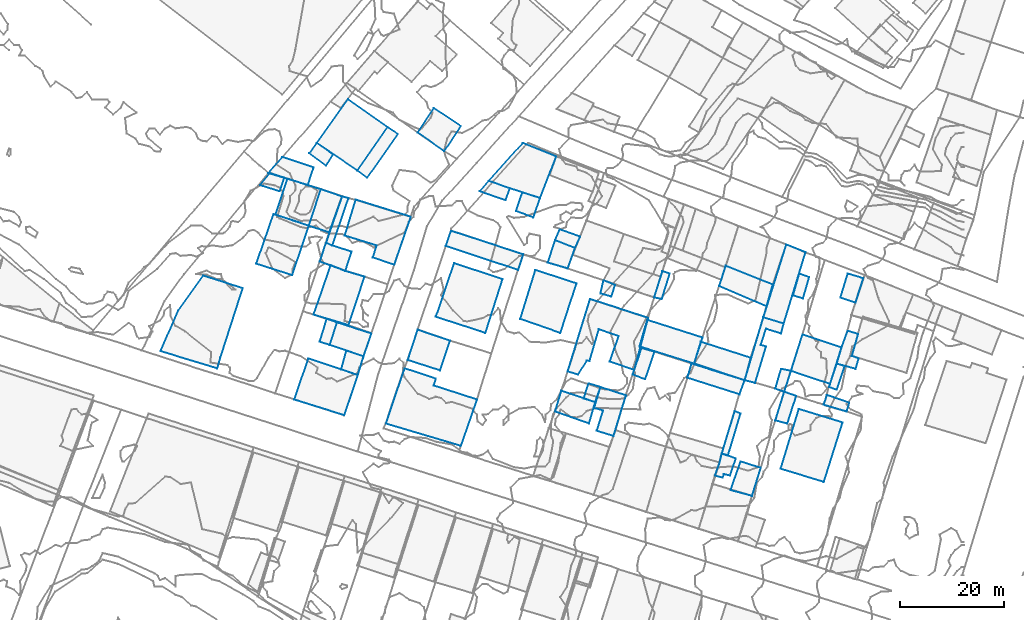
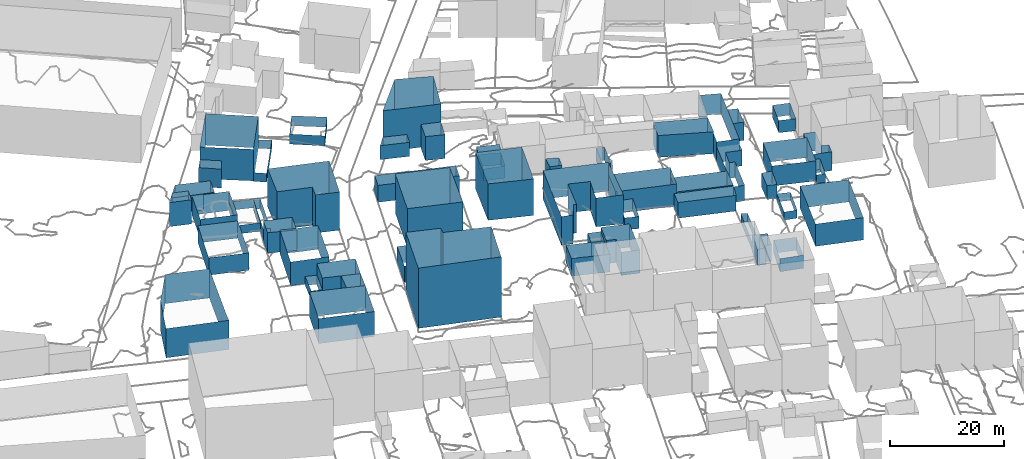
# Not in any storey, part 40 of 419: 53 walls.
"""IFC2X3 model written with IfcOpenShell, lengths in metres."""

from ifc_helpers import new_model, si_unit, frame, origin_with_axes, place, context, subcontext, project, faceted_brep, element, save


model = new_model("IFC2X3")

# Units and contexts
model_context = context("Model", 3, precision=1e-05, world=origin_with_axes())
body_context = subcontext(model_context, "Body", "Model", "MODEL_VIEW")
ifc_project = project(units=[si_unit("AREAUNIT", "SQUARE_METRE"), si_unit("LENGTHUNIT", "METRE")], contexts=[model_context])

# Walls
wall_1_placement = place(None, frame((928.6920204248, 152.1976909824, 73.6711987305), z_axis=(0.0, 0.0, 1.0), x_axis=(1.0, 0.0, 0.0)))
element("IfcWall", 1, at=wall_1_placement, Name="Mur 0", context=body_context, shape_type="Brep", body=[
    faceted_brep([(0.0, 0.0, 3.5288012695), (0.9, 2.5, 3.5288012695), (0.0, 0.0, 0.0), (0.9, 2.5, 0.0), (1.5, -0.3999999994, 3.5288012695), (1.5, -0.3999999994, 0.0), (1.7000000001, 0.2999999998, 3.5288012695), (1.7000000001, 0.2999999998, 0.0), (2.9, 0.0, 3.5288012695), (2.9, 0.0, 0.0), (4.0, 3.2999999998, 3.5288012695), (4.0, 3.2999999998, 0.0), (1.3, 4.2000000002, 3.5288012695), (1.3, 4.2000000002, 0.0)], [[[0, 1, 2]], [[2, 1, 3]], [[4, 0, 5]], [[5, 0, 2]], [[6, 4, 7]], [[7, 4, 5]], [[8, 6, 9]], [[9, 6, 7]], [[10, 8, 11]], [[11, 8, 9]], [[1, 12, 3]], [[3, 12, 13]], [[12, 10, 13]], [[13, 10, 11]]]),
])
wall_2_placement = place(None, frame((841.2920204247, 207.9976909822, 78.8006016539), z_axis=(0.0, 0.0, 1.0), x_axis=(1.0, 0.0, 0.0)))
element("IfcWall", 2, at=wall_2_placement, Name="Mur 0", context=body_context, shape_type="Brep", body=[
    faceted_brep([(1.9, 2.3000000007, 5.1993983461), (4.7000000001, 1.4000000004, 5.1993983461), (1.9, 2.3000000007, 0.0), (4.7000000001, 1.4000000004, 0.0), (0.0, 0.0, 5.1993983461), (0.0, 0.0, 0.0), (3.8, -1.1999999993, 5.1993983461), (3.8, -1.1999999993, 0.0)], [[[0, 1, 2]], [[2, 1, 3]], [[4, 0, 5]], [[5, 0, 2]], [[1, 6, 3]], [[3, 6, 7]], [[6, 4, 7]], [[7, 4, 5]]]),
])
wall_3_placement = place(None, frame((876.9920204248, 196.2976909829, 78.6641006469), z_axis=(0.0, 0.0, 1.0), x_axis=(1.0, 0.0, 0.0)))
element("IfcWall", 3, at=wall_3_placement, Name="Mur 0", context=body_context, shape_type="Brep", body=[
    faceted_brep([(13.9, -4.6000000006, 3.6358993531), (0.0, 0.0, 3.6358993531), (13.9, -4.6000000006, 0.0), (0.0, 0.0, 0.0), (14.9, -1.6000000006, 3.6358993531), (14.9, -1.6000000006, 0.0), (1.0, 2.8999999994, 3.6358993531), (1.0, 2.8999999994, 0.0)], [[[0, 1, 2]], [[2, 1, 3]], [[4, 0, 5]], [[5, 0, 2]], [[1, 6, 3]], [[3, 6, 7]], [[6, 4, 7]], [[7, 4, 5]]]),
])
wall_4_placement = place(None, frame((844.2920204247, 202.2976909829, 78.6877996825), z_axis=(0.0, 0.0, 1.0), x_axis=(1.0, 0.0, 0.0)))
element("IfcWall", 4, at=wall_4_placement, Name="Mur 0", context=body_context, shape_type="Brep", body=[
    faceted_brep([(2.3, 6.8999999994, 4.1122003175), (8.7000000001, 4.8999999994, 4.1122003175), (2.3, 6.8999999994, 0.0), (8.7000000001, 4.8999999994, 0.0), (0.0, 0.0, 4.1122003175), (0.0, 0.0, 0.0), (6.4, -2.1000000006, 4.1122003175), (6.4, -2.1000000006, 0.0)], [[[0, 1, 2]], [[2, 1, 3]], [[4, 0, 5]], [[5, 0, 2]], [[1, 6, 3]], [[3, 6, 7]], [[6, 4, 7]], [[7, 4, 5]]]),
])
wall_5_placement = place(None, frame((852.7920204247, 193.2976909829, 77.9876005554), z_axis=(0.0, 0.0, 1.0), x_axis=(1.0, 0.0, 0.0)))
element("IfcWall", 5, at=wall_5_placement, Name="Mur 0", context=body_context, shape_type="Brep", body=[
    faceted_brep([(1.2000000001, 3.5999999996, 4.4123994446), (2.4, 3.0999999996, 4.4123994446), (1.2000000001, 3.5999999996, 0.0), (2.4, 3.0999999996, 0.0), (0.0, 0.0, 4.4123994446), (0.0, 0.0, 0.0), (4.9, -1.8000000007, 4.4123994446), (4.9, -1.8000000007, 0.0), (6.1000000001, 1.8999999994, 4.4123994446), (6.1000000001, 1.8999999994, 0.0)], [[[0, 1, 2]], [[2, 1, 3]], [[4, 0, 5]], [[5, 0, 2]], [[6, 4, 7]], [[7, 4, 5]], [[1, 8, 3]], [[3, 8, 9]], [[8, 6, 9]], [[9, 6, 7]]]),
])
wall_6_placement = place(None, frame((890.4920204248, 202.9976909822, 78.856399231), z_axis=(0.0, 0.0, 1.0), x_axis=(1.0, 0.0, 0.0)))
element("IfcWall", 6, at=wall_6_placement, Name="Mur 0", context=body_context, shape_type="Brep", body=[
    faceted_brep([(0.0, 0.0, 5.143600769), (1.2, 3.6000000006, 5.143600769), (0.0, 0.0, 0.0), (1.2, 3.6000000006, 0.0), (3.2999999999, -1.1999999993, 5.143600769), (3.2999999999, -1.1999999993, 0.0), (4.6, 2.5, 5.143600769), (4.6, 2.5, 0.0)], [[[0, 1, 2]], [[2, 1, 3]], [[4, 0, 5]], [[5, 0, 2]], [[1, 6, 3]], [[3, 6, 7]], [[6, 4, 7]], [[7, 4, 5]]]),
])
wall_7_placement = place(None, frame((900.3920204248, 172.1976909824, 75.807699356), z_axis=(0.0, 0.0, 1.0), x_axis=(1.0, 0.0, 0.0)))
element("IfcWall", 7, at=wall_7_placement, Name="Mur 0", context=body_context, shape_type="Brep", body=[
    faceted_brep([(0.0, 0.0, 6.192300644), (4.2999999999, 13.9000000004, 6.192300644), (0.0, 0.0, 0.0), (4.2999999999, 13.9000000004, 0.0), (2.0, -0.5999999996, 6.192300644), (2.0, -0.5999999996, 0.0), (3.7, 2.1000000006, 6.192300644), (3.7, 2.1000000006, 0.0), (4.2, 2.0, 6.192300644), (4.2, 2.0, 0.0), (6.0, 8.1000000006, 6.192300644), (6.0, 8.1000000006, 0.0), (9.7999999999, 6.7999999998, 6.192300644), (9.7999999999, 6.7999999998, 0.0), (8.1, 1.9000000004, 6.192300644), (8.1, 1.9000000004, 0.0), (12.7999999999, 0.2999999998, 6.192300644), (12.7999999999, 0.2999999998, 0.0), (15.5, 10.2999999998, 6.192300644), (15.5, 10.2999999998, 0.0)], [[[0, 1, 2]], [[2, 1, 3]], [[4, 0, 5]], [[5, 0, 2]], [[6, 4, 7]], [[7, 4, 5]], [[8, 6, 9]], [[9, 6, 7]], [[10, 8, 11]], [[11, 8, 9]], [[12, 10, 13]], [[13, 10, 11]], [[14, 12, 15]], [[15, 12, 13]], [[16, 14, 17]], [[17, 14, 15]], [[1, 18, 3]], [[3, 18, 19]], [[18, 16, 19]], [[19, 16, 17]]]),
])
wall_8_placement = place(None, frame((891.2920204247, 182.2976909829, 78.2625008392), z_axis=(0.0, 0.0, 1.0), x_axis=(1.0, 0.0, 0.0)))
element("IfcWall", 8, at=wall_8_placement, Name="Mur 0", context=body_context, shape_type="Brep", body=[
    faceted_brep([(7.7000000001, -2.7000000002, 7.8374991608), (0.0, 0.0, 7.8374991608), (7.7000000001, -2.7000000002, 0.0), (0.0, 0.0, 0.0), (10.8, 6.7999999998, 7.8374991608), (10.8, 6.7999999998, 0.0), (2.9, 9.3999999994, 7.8374991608), (2.9, 9.3999999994, 0.0)], [[[0, 1, 2]], [[2, 1, 3]], [[4, 0, 5]], [[5, 0, 2]], [[1, 6, 3]], [[3, 6, 7]], [[6, 4, 7]], [[7, 4, 5]]]),
])
wall_9_placement = place(None, frame((943.2920204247, 172.2976909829, 73.4867980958), z_axis=(0.0, 0.0, 1.0), x_axis=(1.0, 0.0, 0.0)))
element("IfcWall", 9, at=wall_9_placement, Name="Mur 0", context=body_context, shape_type="Brep", body=[
    faceted_brep([(7.5, -2.5, 4.3132019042), (0.0, 0.0, 4.3132019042), (7.5, -2.5, 0.0), (0.0, 0.0, 0.0), (9.7000000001, 4.5, 4.3132019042), (9.7000000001, 4.5, 0.0), (2.2000000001, 7.0, 4.3132019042), (2.2000000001, 7.0, 0.0)], [[[0, 1, 2]], [[2, 1, 3]], [[4, 0, 5]], [[5, 0, 2]], [[1, 6, 3]], [[3, 6, 7]], [[6, 4, 7]], [[7, 4, 5]]]),
])
wall_10_placement = place(None, frame((950.5920204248, 169.1976909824, 72.9079986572), z_axis=(0.0, 0.0, 1.0), x_axis=(1.0, 0.0, 0.0)))
element("IfcWall", 10, at=wall_10_placement, Name="Mur 0", context=body_context, shape_type="Brep", body=[
    faceted_brep([(0.0, 0.0, 2.2920013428), (0.2, 0.6000000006, 2.2920013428), (0.0, 0.0, 0.0), (0.2, 0.6000000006, 0.0), (1.5, -0.5, 2.2920013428), (1.5, -0.5, 0.0), (3.0, 4.0, 2.2920013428), (3.0, 4.0, 0.0), (1.5, 4.5, 2.2920013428), (1.5, 4.5, 0.0)], [[[0, 1, 2]], [[2, 1, 3]], [[4, 0, 5]], [[5, 0, 2]], [[6, 4, 7]], [[7, 4, 5]], [[1, 8, 3]], [[3, 8, 9]], [[8, 6, 9]], [[9, 6, 7]]]),
])
wall_11_placement = place(None, frame((952.0920204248, 173.6976909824, 72.2478011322), z_axis=(0.0, 0.0, 1.0), x_axis=(1.0, 0.0, 0.0)))
element("IfcWall", 11, at=wall_11_placement, Name="Mur 0", context=body_context, shape_type="Brep", body=[
    faceted_brep([(0.0, 0.0, 4.0521988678), (0.9, 3.1000000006, 4.0521988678), (0.0, 0.0, 0.0), (0.9, 3.1000000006, 0.0), (3.6, -1.0, 4.0521988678), (3.6, -1.0, 0.0), (4.2, 1.0, 4.0521988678), (4.2, 1.0, 0.0), (2.9, 1.5, 4.0521988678), (2.9, 1.5, 0.0), (4.1, 5.7000000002, 4.0521988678), (4.1, 5.7000000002, 0.0), (2.1, 6.2999999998, 4.0521988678), (2.1, 6.2999999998, 0.0)], [[[0, 1, 2]], [[2, 1, 3]], [[4, 0, 5]], [[5, 0, 2]], [[6, 4, 7]], [[7, 4, 5]], [[8, 6, 9]], [[9, 6, 7]], [[10, 8, 11]], [[11, 8, 9]], [[1, 12, 3]], [[3, 12, 13]], [[12, 10, 13]], [[13, 10, 11]]]),
])
wall_12_placement = place(None, frame((852.1920204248, 216.0976909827, 80.4232022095), z_axis=(0.0, 0.0, 1.0), x_axis=(1.0, 0.0, 0.0)))
element("IfcWall", 12, at=wall_12_placement, Name="Mur 0", context=body_context, shape_type="Brep", body=[
    faceted_brep([(0.0, 0.0, 6.7767977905), (6.0, 8.3999999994, 6.7767977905), (0.0, 0.0, 0.0), (6.0, 8.3999999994, 0.0), (7.8, -5.2999999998, 6.7767977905), (7.8, -5.2999999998, 0.0), (13.6, 3.0, 6.7767977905), (13.6, 3.0, 0.0)], [[[0, 1, 2]], [[2, 1, 3]], [[4, 0, 5]], [[5, 0, 2]], [[1, 6, 3]], [[3, 6, 7]], [[6, 4, 7]], [[7, 4, 5]]]),
])
wall_13_placement = place(None, frame((871.5920204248, 218.0976909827, 79.8493997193), z_axis=(0.0, 0.0, 1.0), x_axis=(1.0, 0.0, 0.0)))
element("IfcWall", 13, at=wall_13_placement, Name="Mur 0", context=body_context, shape_type="Brep", body=[
    faceted_brep([(8.3, 1.2000000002, 2.1506002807), (5.1, -3.6000000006, 2.1506002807), (8.3, 1.2000000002, 0.0), (5.1, -3.6000000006, 0.0), (3.1, 4.7000000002, 2.1506002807), (3.1, 4.7000000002, 0.0), (0.0, 0.0, 2.1506002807), (0.0, 0.0, 0.0)], [[[0, 1, 2]], [[2, 1, 3]], [[4, 0, 5]], [[5, 0, 2]], [[1, 6, 3]], [[3, 6, 7]], [[6, 4, 7]], [[7, 4, 5]]]),
])
wall_14_placement = place(None, frame((850.6920204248, 200.1976909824, 78.6877996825), z_axis=(0.0, 0.0, 1.0), x_axis=(1.0, 0.0, 0.0)))
element("IfcWall", 14, at=wall_14_placement, Name="Mur 0", context=body_context, shape_type="Brep", body=[
    faceted_brep([(2.3, 7.0, 1.8122003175), (6.4, 5.6000000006, 1.8122003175), (2.3, 7.0, 0.0), (6.4, 5.6000000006, 0.0), (0.0, 0.0, 1.8122003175), (0.0, 0.0, 0.0), (3.9, -1.2999999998, 1.8122003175), (3.9, -1.2999999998, 0.0)], [[[0, 1, 2]], [[2, 1, 3]], [[4, 0, 5]], [[5, 0, 2]], [[1, 6, 3]], [[3, 6, 7]], [[6, 4, 7]], [[7, 4, 5]]]),
])
wall_15_placement = place(None, frame((934.3920204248, 170.4976909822, 74.1349980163), z_axis=(0.0, 0.0, 1.0), x_axis=(1.0, 0.0, 0.0)))
element("IfcWall", 15, at=wall_15_placement, Name="Mur 0", context=body_context, shape_type="Brep", body=[
    faceted_brep([(2.0, -0.5, 3.3650019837), (0.0, 0.0, 3.3650019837), (2.0, -0.5, 0.0), (0.0, 0.0, 0.0), (4.1, 6.5, 3.3650019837), (4.1, 6.5, 0.0), (3.1, 6.8000000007, 3.3650019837), (3.1, 6.8000000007, 0.0), (4.1, 9.9000000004, 3.3650019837), (4.1, 9.9000000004, 0.0), (7.0, 9.0, 3.3650019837), (7.0, 9.0, 0.0), (7.5, 10.9000000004, 3.3650019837), (7.5, 10.9000000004, 0.0), (3.6, 12.1000000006, 3.3650019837), (3.6, 12.1000000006, 0.0)], [[[0, 1, 2]], [[2, 1, 3]], [[4, 0, 5]], [[5, 0, 2]], [[6, 4, 7]], [[7, 4, 5]], [[8, 6, 9]], [[9, 6, 7]], [[10, 8, 11]], [[11, 8, 9]], [[12, 10, 13]], [[13, 10, 11]], [[1, 14, 3]], [[3, 14, 15]], [[14, 12, 15]], [[15, 12, 13]]]),
])
wall_16_placement = place(None, frame((905.4920204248, 165.1976909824, 74.2875997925), z_axis=(0.0, 0.0, 1.0), x_axis=(1.0, 0.0, 0.0)))
element("IfcWall", 16, at=wall_16_placement, Name="Mur 0", context=body_context, shape_type="Brep", body=[
    faceted_brep([(1.7, -0.5, 5.0124002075), (0.0, 0.0, 5.0124002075), (1.7, -0.5, 0.0), (0.0, 0.0, 0.0), (0.5, -4.3999999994, 5.0124002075), (0.5, -4.3999999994, 0.0), (3.7, -5.3999999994, 5.0124002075), (3.7, -5.3999999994, 0.0), (6.1, 2.4000000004, 5.0124002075), (6.1, 2.4000000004, 0.0), (1.2, 4.0, 5.0124002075), (1.2, 4.0, 0.0)], [[[0, 1, 2]], [[2, 1, 3]], [[4, 0, 5]], [[5, 0, 2]], [[6, 4, 7]], [[7, 4, 5]], [[8, 6, 9]], [[9, 6, 7]], [[1, 10, 3]], [[3, 10, 11]], [[10, 8, 11]], [[11, 8, 9]]]),
])
wall_17_placement = place(None, frame((897.9920204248, 197.3976909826, 78.2880004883), z_axis=(0.0, 0.0, 1.0), x_axis=(1.0, 0.0, 0.0)))
element("IfcWall", 17, at=wall_17_placement, Name="Mur 0", context=body_context, shape_type="Brep", body=[
    faceted_brep([(3.7999999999, -1.5, 2.7119995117), (0.0, 0.0, 2.7119995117), (3.7999999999, -1.5, 0.0), (0.0, 0.0, 0.0), (4.7999999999, 0.7000000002, 2.7119995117), (4.7999999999, 0.7000000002, 0.0), (0.9, 2.0999999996, 2.7119995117), (0.9, 2.0999999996, 0.0)], [[[0, 1, 2]], [[2, 1, 3]], [[4, 0, 5]], [[5, 0, 2]], [[1, 6, 3]], [[3, 6, 7]], [[6, 4, 7]], [[7, 4, 5]]]),
])
wall_18_placement = place(None, frame((937.9920204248, 182.5976909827, 74.1879985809), z_axis=(0.0, 0.0, 1.0), x_axis=(1.0, 0.0, 0.0)))
element("IfcWall", 18, at=wall_18_placement, Name="Mur 0", context=body_context, shape_type="Brep", body=[
    faceted_brep([(0.0, 0.0, 4.4120014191), (4.4, 14.0, 4.4120014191), (0.0, 0.0, 0.0), (4.4, 14.0, 0.0), (3.9, -1.2000000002, 4.4120014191), (3.9, -1.2000000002, 0.0), (8.1, 12.5, 4.4120014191), (8.1, 12.5, 0.0)], [[[0, 1, 2]], [[2, 1, 3]], [[4, 0, 5]], [[5, 0, 2]], [[1, 6, 3]], [[3, 6, 7]], [[6, 4, 7]], [[7, 4, 5]]]),
])
wall_19_placement = place(None, frame((941.2920204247, 153.4976909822, 72.6200027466), z_axis=(0.0, 0.0, 1.0), x_axis=(1.0, 0.0, 0.0)))
element("IfcWall", 19, at=wall_19_placement, Name="Mur 0", context=body_context, shape_type="Brep", body=[
    faceted_brep([(11.9, 8.9000000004, 4.7799972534), (8.3, -2.5, 4.7799972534), (11.9, 8.9000000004, 0.0), (8.3, -2.5, 0.0), (3.5, 11.5, 4.7799972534), (3.5, 11.5, 0.0), (0.0, 0.0, 4.7799972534), (0.0, 0.0, 0.0)], [[[0, 1, 2]], [[2, 1, 3]], [[4, 0, 5]], [[5, 0, 2]], [[1, 6, 3]], [[3, 6, 7]], [[6, 4, 7]], [[7, 4, 5]]]),
])
wall_20_placement = place(None, frame((851.5920204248, 183.0976909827, 77.6009994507), z_axis=(0.0, 0.0, 1.0), x_axis=(1.0, 0.0, 0.0)))
element("IfcWall", 20, at=wall_20_placement, Name="Mur 0", context=body_context, shape_type="Brep", body=[
    faceted_brep([(3.3, 9.5, 5.0990005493), (6.1, 8.3999999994, 5.0990005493), (3.3, 9.5, 0.0), (6.1, 8.3999999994, 0.0), (0.0, 0.0, 5.0990005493), (0.0, 0.0, 0.0), (6.7, -2.0, 5.0990005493), (6.7, -2.0, 0.0), (9.8, 7.2999999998, 5.0990005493), (9.8, 7.2999999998, 0.0)], [[[0, 1, 2]], [[2, 1, 3]], [[4, 0, 5]], [[5, 0, 2]], [[6, 4, 7]], [[7, 4, 5]], [[1, 8, 3]], [[3, 8, 9]], [[8, 6, 9]], [[9, 6, 7]]]),
])
wall_21_placement = place(None, frame((856.8920204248, 172.5976909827, 76.904000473), z_axis=(0.0, 0.0, 1.0), x_axis=(1.0, 0.0, 0.0)))
element("IfcWall", 21, at=wall_21_placement, Name="Mur 0", context=body_context, shape_type="Brep", body=[
    faceted_brep([(4.2999999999, 2.5, 4.795999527), (3.2, -1.1000000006, 4.795999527), (4.2999999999, 2.5, 0.0), (3.2, -1.1000000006, 0.0), (1.0, 3.5999999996, 4.795999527), (1.0, 3.5999999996, 0.0), (0.0, 0.0, 4.795999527), (0.0, 0.0, 0.0)], [[[0, 1, 2]], [[2, 1, 3]], [[4, 0, 5]], [[5, 0, 2]], [[1, 6, 3]], [[3, 6, 7]], [[6, 4, 7]], [[7, 4, 5]]]),
])
wall_22_placement = place(None, frame((906.6920204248, 187.1976909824, 77.49039917), z_axis=(0.0, 0.0, 1.0), x_axis=(1.0, 0.0, 0.0)))
element("IfcWall", 22, at=wall_22_placement, Name="Mur 0", context=body_context, shape_type="Brep", body=[
    faceted_brep([(0.0, 0.0, 3.90960083), (0.6, 2.5, 3.90960083), (0.0, 0.0, 0.0), (0.6, 2.5, 0.0), (2.1, -0.5999999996, 3.90960083), (2.1, -0.5999999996, 0.0), (2.8, 1.6000000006, 3.90960083), (2.8, 1.6000000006, 0.0)], [[[0, 1, 2]], [[2, 1, 3]], [[4, 0, 5]], [[5, 0, 2]], [[1, 6, 3]], [[3, 6, 7]], [[6, 4, 7]], [[7, 4, 5]]]),
])
wall_23_placement = place(None, frame((896.5920204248, 193.0976909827, 78.2880004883), z_axis=(0.0, 0.0, 1.0), x_axis=(1.0, 0.0, 0.0)))
element("IfcWall", 23, at=wall_23_placement, Name="Mur 0", context=body_context, shape_type="Brep", body=[
    faceted_brep([(3.8, -1.1000000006, 2.6119995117), (0.0, 0.0, 2.6119995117), (3.8, -1.1000000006, 0.0), (0.0, 0.0, 0.0), (5.2, 2.7999999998, 2.6119995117), (5.2, 2.7999999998, 0.0), (1.4, 4.2999999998, 2.6119995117), (1.4, 4.2999999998, 0.0)], [[[0, 1, 2]], [[2, 1, 3]], [[4, 0, 5]], [[5, 0, 2]], [[1, 6, 3]], [[3, 6, 7]], [[6, 4, 7]], [[7, 4, 5]]]),
])
wall_24_placement = place(None, frame((912.8920204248, 171.5976909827, 75.113199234), z_axis=(0.0, 0.0, 1.0), x_axis=(1.0, 0.0, 0.0)))
element("IfcWall", 24, at=wall_24_placement, Name="Mur 0", context=body_context, shape_type="Brep", body=[
    faceted_brep([(0.0, 0.0, 2.586800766), (1.7, 5.0999999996, 2.586800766), (0.0, 0.0, 0.0), (1.7, 5.0999999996, 0.0), (2.3999999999, -0.9000000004, 2.586800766), (2.3999999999, -0.9000000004, 0.0), (4.2, 4.3999999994, 2.586800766), (4.2, 4.3999999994, 0.0)], [[[0, 1, 2]], [[2, 1, 3]], [[4, 0, 5]], [[5, 0, 2]], [[1, 6, 3]], [[3, 6, 7]], [[6, 4, 7]], [[7, 4, 5]]]),
])
wall_25_placement = place(None, frame((847.8920204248, 166.7976909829, 76.3241984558), z_axis=(0.0, 0.0, 1.0), x_axis=(1.0, 0.0, 0.0)))
element("IfcWall", 25, at=wall_25_placement, Name="Mur 0", context=body_context, shape_type="Brep", body=[
    faceted_brep([(9.6, -3.0, 5.3758015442), (0.0, 0.0, 5.3758015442), (9.6, -3.0, 0.0), (0.0, 0.0, 0.0), (12.2, 4.6999999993, 5.3758015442), (12.2, 4.6999999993, 0.0), (2.7, 7.8999999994, 5.3758015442), (2.7, 7.8999999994, 0.0)], [[[0, 1, 2]], [[2, 1, 3]], [[4, 0, 5]], [[5, 0, 2]], [[1, 6, 3]], [[3, 6, 7]], [[6, 4, 7]], [[7, 4, 5]]]),
])
wall_26_placement = place(None, frame((949.5920204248, 165.7976909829, 71.9440007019), z_axis=(0.0, 0.0, 1.0), x_axis=(1.0, 0.0, 0.0)))
element("IfcWall", 26, at=wall_26_placement, Name="Mur 0", context=body_context, shape_type="Brep", body=[
    faceted_brep([(0.0, 0.0, 2.5559992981), (0.6, 1.8999999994, 2.5559992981), (0.0, 0.0, 0.0), (0.6, 1.8999999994, 0.0), (4.4, -1.3000000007, 2.5559992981), (4.4, -1.3000000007, 0.0), (4.9, 0.3999999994, 2.5559992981), (4.9, 0.3999999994, 0.0)], [[[0, 1, 2]], [[2, 1, 3]], [[4, 0, 5]], [[5, 0, 2]], [[1, 6, 3]], [[3, 6, 7]], [[6, 4, 7]], [[7, 4, 5]]]),
])
wall_27_placement = place(None, frame((903.4920204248, 166.9976909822, 75.2657026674), z_axis=(0.0, 0.0, 1.0), x_axis=(1.0, 0.0, 0.0)))
element("IfcWall", 27, at=wall_27_placement, Name="Mur 0", context=body_context, shape_type="Brep", body=[
    faceted_brep([(2.2, -0.6999999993, 3.1342973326), (0.0, 0.0, 3.1342973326), (2.2, -0.6999999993, 0.0), (0.0, 0.0, 0.0), (3.2, 2.2000000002, 3.1342973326), (3.2, 2.2000000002, 0.0), (0.9, 2.9000000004, 3.1342973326), (0.9, 2.9000000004, 0.0)], [[[0, 1, 2]], [[2, 1, 3]], [[4, 0, 5]], [[5, 0, 2]], [[1, 6, 3]], [[3, 6, 7]], [[6, 4, 7]], [[7, 4, 5]]]),
])
wall_28_placement = place(None, frame((859.9920204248, 210.7976909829, 80.3249977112), z_axis=(0.0, 0.0, 1.0), x_axis=(1.0, 0.0, 0.0)))
element("IfcWall", 28, at=wall_28_placement, Name="Mur 0", context=body_context, shape_type="Brep", body=[
    faceted_brep([(0.0, 0.0, 1.8750022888), (5.7999999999, 8.2999999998, 1.8750022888), (0.0, 0.0, 0.0), (5.7999999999, 8.2999999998, 0.0), (1.9, -1.4000000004, 1.8750022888), (1.9, -1.4000000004, 0.0), (7.7999999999, 7.0, 1.8750022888), (7.7999999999, 7.0, 0.0)], [[[0, 1, 2]], [[2, 1, 3]], [[4, 0, 5]], [[5, 0, 2]], [[1, 6, 3]], [[3, 6, 7]], [[6, 4, 7]], [[7, 4, 5]]]),
])
wall_29_placement = place(None, frame((929.9920204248, 156.3976909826, 74.1690032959), z_axis=(0.0, 0.0, 1.0), x_axis=(1.0, 0.0, 0.0)))
element("IfcWall", 29, at=wall_29_placement, Name="Mur 0", context=body_context, shape_type="Brep", body=[
    faceted_brep([(0.0, 0.0, 1.8309967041), (0.2999999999, 1.0, 1.8309967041), (0.0, 0.0, 0.0), (0.2999999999, 1.0, 0.0), (1.2, -0.2999999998, 1.8309967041), (1.2, -0.2999999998, 0.0), (3.6, 7.7000000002, 1.8309967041), (3.6, 7.7000000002, 0.0), (2.5, 8.2000000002, 1.8309967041), (2.5, 8.2000000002, 0.0)], [[[0, 1, 2]], [[2, 1, 3]], [[4, 0, 5]], [[5, 0, 2]], [[6, 4, 7]], [[7, 4, 5]], [[1, 8, 3]], [[3, 8, 9]], [[8, 6, 9]], [[9, 6, 7]]]),
])
wall_30_placement = place(None, frame((897.9920204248, 164.4976909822, 74.7147990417), z_axis=(0.0, 0.0, 1.0), x_axis=(1.0, 0.0, 0.0)))
element("IfcWall", 30, at=wall_30_placement, Name="Mur 0", context=body_context, shape_type="Brep", body=[
    faceted_brep([(0.0, 0.0, 3.7852009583), (1.2, 4.0, 3.7852009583), (0.0, 0.0, 0.0), (1.2, 4.0, 0.0), (6.5, -2.2999999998, 3.7852009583), (6.5, -2.2999999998, 0.0), (7.7, 1.8000000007, 3.7852009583), (7.7, 1.8000000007, 0.0)], [[[0, 1, 2]], [[2, 1, 3]], [[4, 0, 5]], [[5, 0, 2]], [[1, 6, 3]], [[3, 6, 7]], [[6, 4, 7]], [[7, 4, 5]]]),
])
wall_31_placement = place(None, frame((883.4920204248, 206.7976909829, 79.1811997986), z_axis=(0.0, 0.0, 1.0), x_axis=(1.0, 0.0, 0.0)))
element("IfcWall", 31, at=wall_31_placement, Name="Mur 0", context=body_context, shape_type="Brep", body=[
    faceted_brep([(5.0, -1.7000000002, 3.0188002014), (0.0, 0.0, 3.0188002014), (5.0, -1.7000000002, 0.0), (0.0, 0.0, 0.0), (5.7999999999, 0.5999999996, 3.0188002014), (5.7999999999, 0.5999999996, 0.0), (1.7, 2.0, 3.0188002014), (1.7, 2.0, 0.0)], [[[0, 1, 2]], [[2, 1, 3]], [[4, 0, 5]], [[5, 0, 2]], [[1, 6, 3]], [[3, 6, 7]], [[6, 4, 7]], [[7, 4, 5]]]),
])
wall_32_placement = place(None, frame((853.9920204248, 196.8976909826, 78.2600006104), z_axis=(0.0, 0.0, 1.0), x_axis=(1.0, 0.0, 0.0)))
element("IfcWall", 32, at=wall_32_placement, Name="Mur 0", context=body_context, shape_type="Brep", body=[
    faceted_brep([(3.1, 8.9000000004, 2.3399993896), (4.2999999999, 8.5999999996, 2.3399993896), (3.1, 8.9000000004, 0.0), (4.2999999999, 8.5999999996, 0.0), (0.0, 0.0, 2.3399993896), (0.0, 0.0, 0.0), (1.2, -0.5, 2.3399993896), (1.2, -0.5, 0.0)], [[[0, 1, 2]], [[2, 1, 3]], [[4, 0, 5]], [[5, 0, 2]], [[1, 6, 3]], [[3, 6, 7]], [[6, 4, 7]], [[7, 4, 5]]]),
])
wall_33_placement = place(None, frame((929.4920204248, 188.5976909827, 74.588999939), z_axis=(0.0, 0.0, 1.0), x_axis=(1.0, 0.0, 0.0)))
element("IfcWall", 33, at=wall_33_placement, Name="Mur 0", context=body_context, shape_type="Brep", body=[
    faceted_brep([(0.0, 0.0, 4.711000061), (1.2, 3.5999999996, 4.711000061), (0.0, 0.0, 0.0), (1.2, 3.5999999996, 0.0), (9.1, -3.9000000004, 4.711000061), (9.1, -3.9000000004, 0.0), (10.2999999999, 0.2999999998, 4.711000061), (10.2999999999, 0.2999999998, 0.0), (1.2999999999, 3.8999999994, 4.711000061), (1.2999999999, 3.8999999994, 0.0)], [[[0, 1, 2]], [[2, 1, 3]], [[4, 0, 5]], [[5, 0, 2]], [[6, 4, 7]], [[7, 4, 5]], [[1, 8, 3]], [[3, 8, 9]], [[8, 6, 9]], [[9, 6, 7]]]),
])
wall_34_placement = place(None, frame((923.3920204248, 170.9976909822, 74.3231997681), z_axis=(0.0, 0.0, 1.0), x_axis=(1.0, 0.0, 0.0)))
element("IfcWall", 34, at=wall_34_placement, Name="Mur 0", context=body_context, shape_type="Brep", body=[
    faceted_brep([(0.0, 0.0, 3.3768002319), (0.7999999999, 2.7000000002, 3.3768002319), (0.0, 0.0, 0.0), (0.7999999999, 2.7000000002, 0.0), (10.0, -3.1999999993, 3.3768002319), (10.0, -3.1999999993, 0.0), (11.0, -0.5, 3.3768002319), (11.0, -0.5, 0.0)], [[[0, 1, 2]], [[2, 1, 3]], [[4, 0, 5]], [[5, 0, 2]], [[1, 6, 3]], [[3, 6, 7]], [[6, 4, 7]], [[7, 4, 5]]]),
])
wall_35_placement = place(None, frame((875.0920204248, 182.6976909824, 77.83099823), z_axis=(0.0, 0.0, 1.0), x_axis=(1.0, 0.0, 0.0)))
element("IfcWall", 35, at=wall_35_placement, Name="Mur 0", context=body_context, shape_type="Brep", body=[
    faceted_brep([(9.5, -3.0999999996, 8.36900177), (0.0, 0.0, 8.36900177), (9.5, -3.0999999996, 0.0), (0.0, 0.0, 0.0), (12.8, 7.2000000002, 8.36900177), (12.8, 7.2000000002, 0.0), (3.5, 10.2999999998, 8.36900177), (3.5, 10.2999999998, 0.0)], [[[0, 1, 2]], [[2, 1, 3]], [[4, 0, 5]], [[5, 0, 2]], [[1, 6, 3]], [[3, 6, 7]], [[6, 4, 7]], [[7, 4, 5]]]),
])
wall_36_placement = place(None, frame((940.2920204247, 168.8976909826, 73.7157978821), z_axis=(0.0, 0.0, 1.0), x_axis=(1.0, 0.0, 0.0)))
element("IfcWall", 36, at=wall_36_placement, Name="Mur 0", context=body_context, shape_type="Brep", body=[
    faceted_brep([(1.7000000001, -0.5999999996, 2.9842021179), (0.0, 0.0, 2.9842021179), (1.7000000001, -0.5999999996, 0.0), (0.0, 0.0, 0.0), (3.0, 3.4000000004, 2.9842021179), (3.0, 3.4000000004, 0.0), (1.1000000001, 3.7999999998, 2.9842021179), (1.1000000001, 3.7999999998, 0.0)], [[[0, 1, 2]], [[2, 1, 3]], [[4, 0, 5]], [[5, 0, 2]], [[1, 6, 3]], [[3, 6, 7]], [[6, 4, 7]], [[7, 4, 5]]]),
])
wall_37_placement = place(None, frame((869.6920204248, 174.3976909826, 77.1950019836), z_axis=(0.0, 0.0, 1.0), x_axis=(1.0, 0.0, 0.0)))
element("IfcWall", 37, at=wall_37_placement, Name="Mur 0", context=body_context, shape_type="Brep", body=[
    faceted_brep([(0.0, 0.0, 3.6049980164), (1.9, 5.7999999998, 3.6049980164), (0.0, 0.0, 0.0), (1.9, 5.7999999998, 0.0), (6.2000000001, -2.0, 3.6049980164), (6.2000000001, -2.0, 0.0), (8.1, 3.7000000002, 3.6049980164), (8.1, 3.7000000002, 0.0)], [[[0, 1, 2]], [[2, 1, 3]], [[4, 0, 5]], [[5, 0, 2]], [[1, 6, 3]], [[3, 6, 7]], [[6, 4, 7]], [[7, 4, 5]]]),
])
wall_38_placement = place(None, frame((952.7920204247, 186.3976909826, 73.0867999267), z_axis=(0.0, 0.0, 1.0), x_axis=(1.0, 0.0, 0.0)))
element("IfcWall", 38, at=wall_38_placement, Name="Mur 0", context=body_context, shape_type="Brep", body=[
    faceted_brep([(1.4, 4.5999999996, 2.6132000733), (4.4, 3.7000000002, 2.6132000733), (1.4, 4.5999999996, 0.0), (4.4, 3.7000000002, 0.0), (0.0, 0.0, 2.6132000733), (0.0, 0.0, 0.0), (2.9, -1.0, 2.6132000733), (2.9, -1.0, 0.0)], [[[0, 1, 2]], [[2, 1, 3]], [[4, 0, 5]], [[5, 0, 2]], [[1, 6, 3]], [[3, 6, 7]], [[6, 4, 7]], [[7, 4, 5]]]),
])
wall_39_placement = place(None, frame((916.9920204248, 186.3976909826, 75.8489025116), z_axis=(0.0, 0.0, 1.0), x_axis=(1.0, 0.0, 0.0)))
element("IfcWall", 39, at=wall_39_placement, Name="Mur 0", context=body_context, shape_type="Brep", body=[
    faceted_brep([(0.0, 0.0, 2.8510974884), (1.2999999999, 4.0, 2.8510974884), (0.0, 0.0, 0.0), (1.2999999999, 4.0, 0.0), (1.5, -0.2999999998, 2.8510974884), (1.5, -0.2999999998, 0.0), (3.0, 4.5999999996, 2.8510974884), (3.0, 4.5999999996, 0.0), (1.6, 5.0999999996, 2.8510974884), (1.6, 5.0999999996, 0.0)], [[[0, 1, 2]], [[2, 1, 3]], [[4, 0, 5]], [[5, 0, 2]], [[6, 4, 7]], [[7, 4, 5]], [[1, 8, 3]], [[3, 8, 9]], [[8, 6, 9]], [[9, 6, 7]]]),
])
wall_40_placement = place(None, frame((850.7920204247, 214.0976909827, 80.4339996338), z_axis=(0.0, 0.0, 1.0), x_axis=(1.0, 0.0, 0.0)))
element("IfcWall", 40, at=wall_40_placement, Name="Mur 0", context=body_context, shape_type="Brep", body=[
    faceted_brep([(0.0, 0.0, 4.0660003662), (1.4, 2.0, 4.0660003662), (0.0, 0.0, 0.0), (1.4, 2.0, 0.0), (3.2000000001, -2.4000000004, 4.0660003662), (3.2000000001, -2.4000000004, 0.0), (4.5, -0.2000000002, 4.0660003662), (4.5, -0.2000000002, 0.0)], [[[0, 1, 2]], [[2, 1, 3]], [[4, 0, 5]], [[5, 0, 2]], [[1, 6, 3]], [[3, 6, 7]], [[6, 4, 7]], [[7, 4, 5]]]),
])
wall_41_placement = place(None, frame((852.7920204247, 177.8976909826, 77.2629989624), z_axis=(0.0, 0.0, 1.0), x_axis=(1.0, 0.0, 0.0)))
element("IfcWall", 41, at=wall_41_placement, Name="Mur 0", context=body_context, shape_type="Brep", body=[
    faceted_brep([(0.0, 0.0, 1.9370010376), (1.3, 4.4000000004, 1.9370010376), (0.0, 0.0, 0.0), (1.3, 4.4000000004, 0.0), (1.9, -0.5999999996, 1.9370010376), (1.9, -0.5999999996, 0.0), (3.3, 3.7000000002, 1.9370010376), (3.3, 3.7000000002, 0.0)], [[[0, 1, 2]], [[2, 1, 3]], [[4, 0, 5]], [[5, 0, 2]], [[1, 6, 3]], [[3, 6, 7]], [[6, 4, 7]], [[7, 4, 5]]]),
])
wall_42_placement = place(None, frame((931.6920204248, 149.3976909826, 72.983201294), z_axis=(0.0, 0.0, 1.0), x_axis=(1.0, 0.0, 0.0)))
element("IfcWall", 42, at=wall_42_placement, Name="Mur 0", context=body_context, shape_type="Brep", body=[
    faceted_brep([(4.1, -1.0999999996, 2.816798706), (0.0, 0.0, 2.816798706), (4.1, -1.0999999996, 0.0), (0.0, 0.0, 0.0), (5.8, 4.2999999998, 2.816798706), (5.8, 4.2999999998, 0.0), (1.9, 5.5, 2.816798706), (1.9, 5.5, 0.0)], [[[0, 1, 2]], [[2, 1, 3]], [[4, 0, 5]], [[5, 0, 2]], [[1, 6, 3]], [[3, 6, 7]], [[6, 4, 7]], [[7, 4, 5]]]),
])
wall_43_placement = place(None, frame((924.6920204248, 173.6976909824, 74.3799972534), z_axis=(0.0, 0.0, 1.0), x_axis=(1.0, 0.0, 0.0)))
element("IfcWall", 43, at=wall_43_placement, Name="Mur 0", context=body_context, shape_type="Brep", body=[
    faceted_brep([(0.0, 0.0, 3.5200027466), (1.3, 4.2000000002, 3.5200027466), (0.0, 0.0, 0.0), (1.3, 4.2000000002, 0.0), (9.7000000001, -3.2000000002, 3.5200027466), (9.7000000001, -3.2000000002, 0.0), (10.9, 1.1000000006, 3.5200027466), (10.9, 1.1000000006, 0.0)], [[[0, 1, 2]], [[2, 1, 3]], [[4, 0, 5]], [[5, 0, 2]], [[1, 6, 3]], [[3, 6, 7]], [[6, 4, 7]], [[7, 4, 5]]]),
])
wall_44_placement = place(None, frame((914.1920204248, 176.9976909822, 74.9100016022), z_axis=(0.0, 0.0, 1.0), x_axis=(1.0, 0.0, 0.0)))
element("IfcWall", 44, at=wall_44_placement, Name="Mur 0", context=body_context, shape_type="Brep", body=[
    faceted_brep([(0.0, 0.0, 4.6899983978), (1.5, 5.1000000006, 4.6899983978), (0.0, 0.0, 0.0), (1.5, 5.1000000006, 0.0), (10.5, -3.2999999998, 4.6899983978), (10.5, -3.2999999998, 0.0), (12.1, 1.7000000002, 4.6899983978), (12.1, 1.7000000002, 0.0)], [[[0, 1, 2]], [[2, 1, 3]], [[4, 0, 5]], [[5, 0, 2]], [[1, 6, 3]], [[3, 6, 7]], [[6, 4, 7]], [[7, 4, 5]]]),
])
wall_45_placement = place(None, frame((943.6920204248, 186.7976909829, 74.0939971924), z_axis=(0.0, 0.0, 1.0), x_axis=(1.0, 0.0, 0.0)))
element("IfcWall", 45, at=wall_45_placement, Name="Mur 0", context=body_context, shape_type="Brep", body=[
    faceted_brep([(0.0, 0.0, 3.9060028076), (1.2000000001, 4.1999999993, 3.9060028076), (0.0, 0.0, 0.0), (1.2000000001, 4.1999999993, 0.0), (1.9, -0.6000000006, 3.9060028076), (1.9, -0.6000000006, 0.0), (3.1, 3.5, 3.9060028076), (3.1, 3.5, 0.0)], [[[0, 1, 2]], [[2, 1, 3]], [[4, 0, 5]], [[5, 0, 2]], [[1, 6, 3]], [[3, 6, 7]], [[6, 4, 7]], [[7, 4, 5]]]),
])
wall_46_placement = place(None, frame((940.2920204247, 162.7976909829, 72.9740005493), z_axis=(0.0, 0.0, 1.0), x_axis=(1.0, 0.0, 0.0)))
element("IfcWall", 46, at=wall_46_placement, Name="Mur 0", context=body_context, shape_type="Brep", body=[
    faceted_brep([(0.0, 0.0, 1.7259994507), (1.7000000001, 5.5, 1.7259994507), (0.0, 0.0, 0.0), (1.7000000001, 5.5, 0.0), (2.3, -0.6000000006, 1.7259994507), (2.3, -0.6000000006, 0.0), (4.0, 4.6999999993, 1.7259994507), (4.0, 4.6999999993, 0.0)], [[[0, 1, 2]], [[2, 1, 3]], [[4, 0, 5]], [[5, 0, 2]], [[1, 6, 3]], [[3, 6, 7]], [[6, 4, 7]], [[7, 4, 5]]]),
])
wall_47_placement = place(None, frame((842.8920204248, 210.2976909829, 79.5050990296), z_axis=(0.0, 0.0, 1.0), x_axis=(1.0, 0.0, 0.0)))
element("IfcWall", 47, at=wall_47_placement, Name="Mur 0", context=body_context, shape_type="Brep", body=[
    faceted_brep([(0.0, 0.0, 3.4949009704), (2.7, 3.0999999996, 3.4949009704), (0.0, 0.0, 0.0), (2.7, 3.0999999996, 0.0), (7.6, -2.3000000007, 3.4949009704), (7.6, -2.3000000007, 0.0), (8.7, 1.0999999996, 3.4949009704), (8.7, 1.0999999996, 0.0)], [[[0, 1, 2]], [[2, 1, 3]], [[4, 0, 5]], [[5, 0, 2]], [[1, 6, 3]], [[3, 6, 7]], [[6, 4, 7]], [[7, 4, 5]]]),
])
wall_48_placement = place(None, frame((840.5920204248, 192.8976909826, 77.7798992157), z_axis=(0.0, 0.0, 1.0), x_axis=(1.0, 0.0, 0.0)))
element("IfcWall", 48, at=wall_48_placement, Name="Mur 0", context=body_context, shape_type="Brep", body=[
    faceted_brep([(3.3, 9.5, 3.7201007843), (10.1, 7.2999999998, 3.7201007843), (3.3, 9.5, 0.0), (10.1, 7.2999999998, 0.0), (0.0, 0.0, 3.7201007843), (0.0, 0.0, 0.0), (6.9, -2.2000000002, 3.7201007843), (6.9, -2.2000000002, 0.0)], [[[0, 1, 2]], [[2, 1, 3]], [[4, 0, 5]], [[5, 0, 2]], [[1, 6, 3]], [[3, 6, 7]], [[6, 4, 7]], [[7, 4, 5]]]),
])
wall_49_placement = place(None, frame((857.5920204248, 198.2976909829, 78.2925003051), z_axis=(0.0, 0.0, 1.0), x_axis=(1.0, 0.0, 0.0)))
element("IfcWall", 49, at=wall_49_placement, Name="Mur 0", context=body_context, shape_type="Brep", body=[
    faceted_brep([(2.1, 6.8999999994, 8.2074996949), (12.7, 3.5999999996, 8.2074996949), (2.1, 6.8999999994, 0.0), (12.7, 3.5999999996, 0.0), (0.0, 0.0, 8.2074996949), (0.0, 0.0, 0.0), (6.1, -1.9000000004, 8.2074996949), (6.1, -1.9000000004, 0.0), (5.4, -4.2000000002, 8.2074996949), (5.4, -4.2000000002, 0.0), (9.5, -5.6000000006, 8.2074996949), (9.5, -5.6000000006, 0.0)], [[[0, 1, 2]], [[2, 1, 3]], [[4, 0, 5]], [[5, 0, 2]], [[6, 4, 7]], [[7, 4, 5]], [[8, 6, 9]], [[9, 6, 7]], [[1, 10, 3]], [[3, 10, 11]], [[10, 8, 11]], [[11, 8, 9]]]),
])
wall_50_placement = place(None, frame((854.6920204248, 177.2976909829, 77.0497982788), z_axis=(0.0, 0.0, 1.0), x_axis=(1.0, 0.0, 0.0)))
element("IfcWall", 50, at=wall_50_placement, Name="Mur 0", context=body_context, shape_type="Brep", body=[
    faceted_brep([(1.4, 4.2999999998, 4.6502017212), (8.0, 2.1999999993, 4.6502017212), (1.4, 4.2999999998, 0.0), (8.0, 2.1999999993, 0.0), (0.0, 0.0, 4.6502017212), (0.0, 0.0, 0.0), (6.5, -2.2000000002, 4.6502017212), (6.5, -2.2000000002, 0.0)], [[[0, 1, 2]], [[2, 1, 3]], [[4, 0, 5]], [[5, 0, 2]], [[1, 6, 3]], [[3, 6, 7]], [[6, 4, 7]], [[7, 4, 5]]]),
])
wall_51_placement = place(None, frame((865.4920204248, 162.1976909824, 76.2343998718), z_axis=(0.0, 0.0, 1.0), x_axis=(1.0, 0.0, 0.0)))
element("IfcWall", 51, at=wall_51_placement, Name="Mur 0", context=body_context, shape_type="Brep", body=[
    faceted_brep([(0.0, 0.0, 12.9656001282), (3.6, 10.6000000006, 12.9656001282), (0.0, 0.0, 0.0), (3.6, 10.6000000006, 0.0), (14.4, -4.2999999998, 12.9656001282), (14.4, -4.2999999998, 0.0), (17.5, 4.6000000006, 12.9656001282), (17.5, 4.6000000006, 0.0), (9.2, 7.2999999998, 12.9656001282), (9.2, 7.2999999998, 0.0), (9.6, 8.6000000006, 12.9656001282), (9.6, 8.6000000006, 0.0)], [[[0, 1, 2]], [[2, 1, 3]], [[4, 0, 5]], [[5, 0, 2]], [[6, 4, 7]], [[7, 4, 5]], [[8, 6, 9]], [[9, 6, 7]], [[1, 10, 3]], [[3, 10, 11]], [[10, 8, 11]], [[11, 8, 9]]]),
])
wall_52_placement = place(None, frame((822.1920204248, 176.0976909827, 76.6218009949), z_axis=(0.0, 0.0, 1.0), x_axis=(1.0, 0.0, 0.0)))
element("IfcWall", 52, at=wall_52_placement, Name="Mur 0", context=body_context, shape_type="Brep", body=[
    faceted_brep([(15.8, 12.0999999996, 6.2781990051), (11.5, -1.2000000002, 6.2781990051), (15.8, 12.0999999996, 0.0), (11.5, -1.2000000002, 0.0), (8.2000000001, 14.5, 6.2781990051), (8.2000000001, 14.5, 0.0), (3.4, 7.7999999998, 6.2781990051), (3.4, 7.7999999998, 0.0), (0.0, 0.0, 6.2781990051), (0.0, 0.0, 0.0), (10.9, -3.2999999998, 6.2781990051), (10.9, -3.2999999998, 0.0)], [[[0, 1, 2]], [[2, 1, 3]], [[4, 0, 5]], [[5, 0, 2]], [[6, 4, 7]], [[7, 4, 5]], [[8, 6, 9]], [[9, 6, 7]], [[1, 10, 3]], [[3, 10, 11]], [[10, 8, 11]], [[11, 8, 9]]]),
])
wall_53_placement = place(None, frame((885.1920204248, 208.7976909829, 79.1050006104), z_axis=(0.0, 0.0, 1.0), x_axis=(1.0, 0.0, 0.0)))
element("IfcWall", 53, at=wall_53_placement, Name="Mur 0", context=body_context, shape_type="Brep", body=[
    faceted_brep([(9.9, -3.3000000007, 8.7949993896), (4.1, -1.4000000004, 8.7949993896), (9.9, -3.3000000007, 0.0), (4.1, -1.4000000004, 0.0), (13.0, 4.6999999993, 8.7949993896), (13.0, 4.6999999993, 0.0), (6.6, 7.2999999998, 8.7949993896), (6.6, 7.2999999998, 0.0), (0.0, 0.0, 8.7949993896), (0.0, 0.0, 0.0)], [[[0, 1, 2]], [[2, 1, 3]], [[4, 0, 5]], [[5, 0, 2]], [[6, 4, 7]], [[7, 4, 5]], [[1, 8, 3]], [[3, 8, 9]], [[8, 6, 9]], [[9, 6, 7]]]),
])

save(model, "model.ifc")
